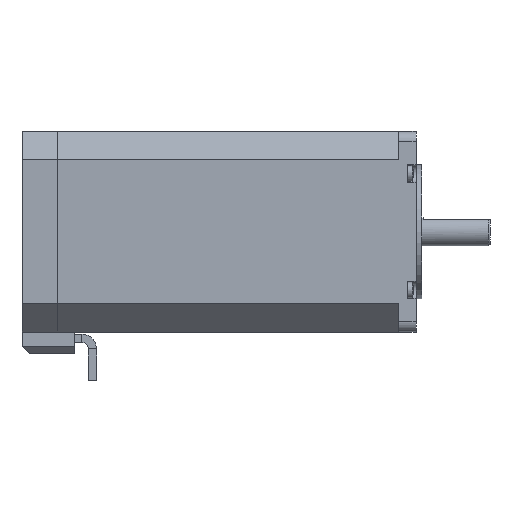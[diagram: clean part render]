
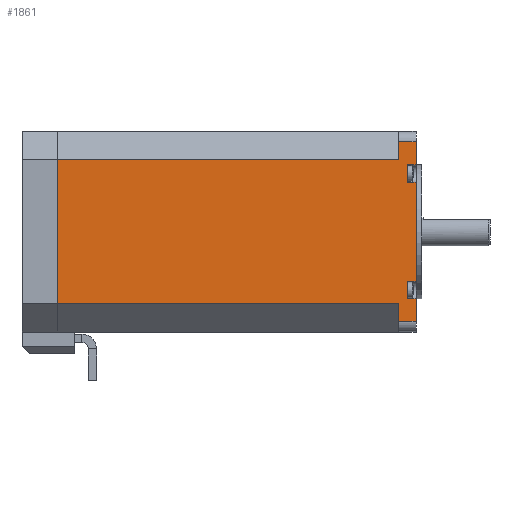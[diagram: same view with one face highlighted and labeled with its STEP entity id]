
A CAD part, left-side view. The second image highlights one B-rep face of the part: STEP entity #1861.
In plain terms, the highlighted planar face has unit normal (-1, 0, 0).
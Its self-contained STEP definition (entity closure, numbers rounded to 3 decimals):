
#19 = EDGE_CURVE ( 'NONE', #64, #1948, #3793, .T. ) ;
#62 = LINE ( 'NONE', #1538, #2956 ) ;
#64 = VERTEX_POINT ( 'NONE', #4745 ) ;
#96 = CARTESIAN_POINT ( 'NONE',  ( -37.553, 41.925, 33.465 ) ) ;
#109 = VECTOR ( 'NONE', #2428, 1000. ) ;
#165 = LINE ( 'NONE', #2503, #109 ) ;
#230 = VERTEX_POINT ( 'NONE', #3074 ) ;
#271 = VECTOR ( 'NONE', #1133, 1000. ) ;
#289 = AXIS2_PLACEMENT_3D ( 'NONE', #1474, #655, #5120 ) ;
#293 = CARTESIAN_POINT ( 'NONE',  ( -37.553, -39.491, 28.465 ) ) ;
#318 = LINE ( 'NONE', #2134, #2289 ) ;
#337 = CARTESIAN_POINT ( 'NONE',  ( -37.553, -44.491, 22.015 ) ) ;
#352 = LINE ( 'NONE', #2633, #4360 ) ;
#416 = ORIENTED_EDGE ( 'NONE', *, *, #1122, .T. ) ;
#426 = EDGE_CURVE ( 'NONE', #3076, #3206, #1719, .T. ) ;
#470 = VERTEX_POINT ( 'NONE', #4351 ) ;
#482 = VECTOR ( 'NONE', #619, 1000. ) ;
#497 = ORIENTED_EDGE ( 'NONE', *, *, #4849, .F. ) ;
#513 = VERTEX_POINT ( 'NONE', #293 ) ;
#517 = VECTOR ( 'NONE', #4681, 1000. ) ;
#527 = CARTESIAN_POINT ( 'NONE',  ( -37.553, -55.805, 28.465 ) ) ;
#573 = ORIENTED_EDGE ( 'NONE', *, *, #4708, .F. ) ;
#619 = DIRECTION ( 'NONE',  ( 0., -1., 0. ) ) ;
#624 = PLANE ( 'NONE',  #289 ) ;
#655 = DIRECTION ( 'NONE',  ( 1., 0., 0. ) ) ;
#696 = DIRECTION ( 'NONE',  ( 0., 0., 1. ) ) ;
#731 = ORIENTED_EDGE ( 'NONE', *, *, #5420, .T. ) ;
#895 = CARTESIAN_POINT ( 'NONE',  ( -37.553, -44.491, -20.535 ) ) ;
#1122 = EDGE_CURVE ( 'NONE', #1847, #1546, #2798, .T. ) ;
#1133 = DIRECTION ( 'NONE',  ( 0., -1., 0. ) ) ;
#1140 = LINE ( 'NONE', #4759, #3719 ) ;
#1217 = CARTESIAN_POINT ( 'NONE',  ( -37.553, -41.991, -6.085 ) ) ;
#1341 = VERTEX_POINT ( 'NONE', #337 ) ;
#1474 = CARTESIAN_POINT ( 'NONE',  ( -37.553, 57.509, -20.535 ) ) ;
#1538 = CARTESIAN_POINT ( 'NONE',  ( -37.553, -41.991, -6.085 ) ) ;
#1546 = VERTEX_POINT ( 'NONE', #4225 ) ;
#1561 = FACE_OUTER_BOUND ( 'NONE', #4790, .T. ) ;
#1623 = VECTOR ( 'NONE', #3745, 1000. ) ;
#1715 = ORIENTED_EDGE ( 'NONE', *, *, #426, .T. ) ;
#1719 = LINE ( 'NONE', #1217, #271 ) ;
#1738 = VECTOR ( 'NONE', #4533, 1000. ) ;
#1741 = CARTESIAN_POINT ( 'NONE',  ( -37.553, 57.509, -12.535 ) ) ;
#1845 = CARTESIAN_POINT ( 'NONE',  ( -37.553, -44.491, -6.085 ) ) ;
#1847 = VERTEX_POINT ( 'NONE', #4774 ) ;
#1861 = ADVANCED_FACE ( 'NONE', ( #1561 ), #624, .F. ) ;
#1873 = VERTEX_POINT ( 'NONE', #3875 ) ;
#1948 = VERTEX_POINT ( 'NONE', #1741 ) ;
#1961 = ORIENTED_EDGE ( 'NONE', *, *, #1992, .T. ) ;
#1992 = EDGE_CURVE ( 'NONE', #64, #1873, #5364, .T. ) ;
#2022 = EDGE_CURVE ( 'NONE', #2644, #513, #318, .T. ) ;
#2134 = CARTESIAN_POINT ( 'NONE',  ( -37.553, -39.491, 28.465 ) ) ;
#2234 = LINE ( 'NONE', #4653, #2477 ) ;
#2289 = VECTOR ( 'NONE', #3003, 1000. ) ;
#2343 = CARTESIAN_POINT ( 'NONE',  ( -37.553, -55.805, -12.535 ) ) ;
#2357 = ORIENTED_EDGE ( 'NONE', *, *, #5471, .T. ) ;
#2428 = DIRECTION ( 'NONE',  ( 0., -1., 0. ) ) ;
#2477 = VECTOR ( 'NONE', #4181, 1000. ) ;
#2487 = VECTOR ( 'NONE', #4226, 1000. ) ;
#2503 = CARTESIAN_POINT ( 'NONE',  ( -37.553, 41.925, -17.535 ) ) ;
#2633 = CARTESIAN_POINT ( 'NONE',  ( -37.553, 57.509, -20.535 ) ) ;
#2644 = VERTEX_POINT ( 'NONE', #5349 ) ;
#2674 = EDGE_CURVE ( 'NONE', #230, #1341, #2234, .T. ) ;
#2771 = LINE ( 'NONE', #4144, #517 ) ;
#2794 = LINE ( 'NONE', #96, #2487 ) ;
#2798 = LINE ( 'NONE', #3273, #482 ) ;
#2817 = ORIENTED_EDGE ( 'NONE', *, *, #3722, .T. ) ;
#2860 = LINE ( 'NONE', #527, #3728 ) ;
#2918 = VERTEX_POINT ( 'NONE', #5446 ) ;
#2933 = DIRECTION ( 'NONE',  ( 0., -1., 0. ) ) ;
#2956 = VECTOR ( 'NONE', #5581, 1000. ) ;
#3003 = DIRECTION ( 'NONE',  ( 0., 0., -1. ) ) ;
#3050 = DIRECTION ( 'NONE',  ( 0., 0., 1. ) ) ;
#3074 = CARTESIAN_POINT ( 'NONE',  ( -37.553, -41.991, 22.015 ) ) ;
#3076 = VERTEX_POINT ( 'NONE', #4385 ) ;
#3079 = VERTEX_POINT ( 'NONE', #4804 ) ;
#3096 = ORIENTED_EDGE ( 'NONE', *, *, #5750, .T. ) ;
#3099 = CARTESIAN_POINT ( 'NONE',  ( -37.553, -39.491, -20.535 ) ) ;
#3135 = VECTOR ( 'NONE', #4377, 1000. ) ;
#3192 = ORIENTED_EDGE ( 'NONE', *, *, #2022, .T. ) ;
#3206 = VERTEX_POINT ( 'NONE', #1845 ) ;
#3255 = DIRECTION ( 'NONE',  ( 0., 1., 0. ) ) ;
#3273 = CARTESIAN_POINT ( 'NONE',  ( -37.553, -41.991, 27.015 ) ) ;
#3281 = ORIENTED_EDGE ( 'NONE', *, *, #3457, .F. ) ;
#3320 = LINE ( 'NONE', #5134, #1623 ) ;
#3457 = EDGE_CURVE ( 'NONE', #1948, #5098, #352, .T. ) ;
#3536 = EDGE_CURVE ( 'NONE', #2644, #470, #2794, .T. ) ;
#3664 = DIRECTION ( 'NONE',  ( 0., 1., 0. ) ) ;
#3694 = CARTESIAN_POINT ( 'NONE',  ( -37.553, 57.509, 28.465 ) ) ;
#3719 = VECTOR ( 'NONE', #696, 1000. ) ;
#3722 = EDGE_CURVE ( 'NONE', #2918, #5149, #1140, .T. ) ;
#3728 = VECTOR ( 'NONE', #3664, 1000. ) ;
#3745 = DIRECTION ( 'NONE',  ( 0., 0., -1. ) ) ;
#3793 = LINE ( 'NONE', #2343, #5011 ) ;
#3875 = CARTESIAN_POINT ( 'NONE',  ( -37.553, -39.491, -17.535 ) ) ;
#3912 = VECTOR ( 'NONE', #2933, 1000. ) ;
#4022 = ORIENTED_EDGE ( 'NONE', *, *, #4363, .T. ) ;
#4144 = CARTESIAN_POINT ( 'NONE',  ( -37.553, -44.491, -20.535 ) ) ;
#4181 = DIRECTION ( 'NONE',  ( 0., -1., 0. ) ) ;
#4225 = CARTESIAN_POINT ( 'NONE',  ( -37.553, -44.491, 27.015 ) ) ;
#4226 = DIRECTION ( 'NONE',  ( 0., -1., 0. ) ) ;
#4351 = CARTESIAN_POINT ( 'NONE',  ( -37.553, -44.491, 33.465 ) ) ;
#4360 = VECTOR ( 'NONE', #3050, 1000. ) ;
#4363 = EDGE_CURVE ( 'NONE', #1873, #2918, #165, .T. ) ;
#4377 = DIRECTION ( 'NONE',  ( 0., 0., -1. ) ) ;
#4385 = CARTESIAN_POINT ( 'NONE',  ( -37.553, -41.991, -6.085 ) ) ;
#4520 = EDGE_CURVE ( 'NONE', #1847, #230, #3320, .T. ) ;
#4527 = ORIENTED_EDGE ( 'NONE', *, *, #19, .F. ) ;
#4533 = DIRECTION ( 'NONE',  ( 0., 0., 1. ) ) ;
#4653 = CARTESIAN_POINT ( 'NONE',  ( -37.553, -41.991, 22.015 ) ) ;
#4681 = DIRECTION ( 'NONE',  ( 0., 0., 1. ) ) ;
#4708 = EDGE_CURVE ( 'NONE', #3079, #5149, #4811, .T. ) ;
#4745 = CARTESIAN_POINT ( 'NONE',  ( -37.553, -39.491, -12.535 ) ) ;
#4759 = CARTESIAN_POINT ( 'NONE',  ( -37.553, -44.491, -20.535 ) ) ;
#4774 = CARTESIAN_POINT ( 'NONE',  ( -37.553, -41.991, 27.015 ) ) ;
#4790 = EDGE_LOOP ( 'NONE', ( #2357, #5157, #5752, #416, #3096, #5510, #3192, #731, #3281, #4527, #1961, #4022, #2817, #573, #497, #1715 ) ) ;
#4804 = CARTESIAN_POINT ( 'NONE',  ( -37.553, -41.991, -11.085 ) ) ;
#4811 = LINE ( 'NONE', #5702, #3912 ) ;
#4849 = EDGE_CURVE ( 'NONE', #3076, #3079, #62, .T. ) ;
#4922 = LINE ( 'NONE', #895, #1738 ) ;
#5008 = CARTESIAN_POINT ( 'NONE',  ( -37.553, -44.491, -11.085 ) ) ;
#5011 = VECTOR ( 'NONE', #3255, 1000. ) ;
#5098 = VERTEX_POINT ( 'NONE', #3694 ) ;
#5120 = DIRECTION ( 'NONE',  ( 0., 0., -1. ) ) ;
#5134 = CARTESIAN_POINT ( 'NONE',  ( -37.553, -41.991, 22.015 ) ) ;
#5149 = VERTEX_POINT ( 'NONE', #5008 ) ;
#5157 = ORIENTED_EDGE ( 'NONE', *, *, #2674, .F. ) ;
#5349 = CARTESIAN_POINT ( 'NONE',  ( -37.553, -39.491, 33.465 ) ) ;
#5364 = LINE ( 'NONE', #3099, #3135 ) ;
#5420 = EDGE_CURVE ( 'NONE', #513, #5098, #2860, .T. ) ;
#5446 = CARTESIAN_POINT ( 'NONE',  ( -37.553, -44.491, -17.535 ) ) ;
#5471 = EDGE_CURVE ( 'NONE', #3206, #1341, #2771, .T. ) ;
#5510 = ORIENTED_EDGE ( 'NONE', *, *, #3536, .F. ) ;
#5581 = DIRECTION ( 'NONE',  ( 0., 0., -1. ) ) ;
#5702 = CARTESIAN_POINT ( 'NONE',  ( -37.553, -41.991, -11.085 ) ) ;
#5750 = EDGE_CURVE ( 'NONE', #1546, #470, #4922, .T. ) ;
#5752 = ORIENTED_EDGE ( 'NONE', *, *, #4520, .F. ) ;
